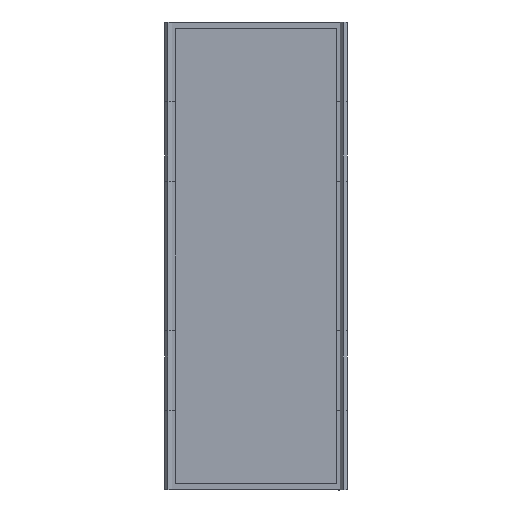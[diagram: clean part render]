
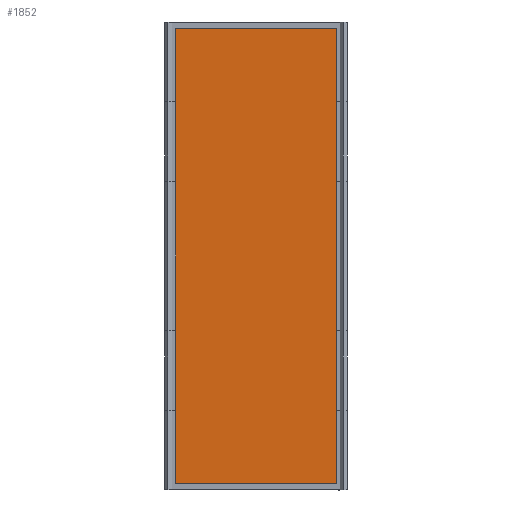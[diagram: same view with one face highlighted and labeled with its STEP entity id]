
A CAD part, front view. The second image highlights one B-rep face of the part: STEP entity #1852.
In plain terms, the highlighted planar face has unit normal (-0.087, -0.996, 0).
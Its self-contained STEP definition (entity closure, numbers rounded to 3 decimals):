
#54=FACE_OUTER_BOUND('',#161,.T.);
#161=EDGE_LOOP('',(#1223,#1224,#1225,#1226));
#268=LINE('',#2612,#520);
#272=LINE('',#2620,#524);
#274=LINE('',#2624,#526);
#275=LINE('',#2625,#527);
#520=VECTOR('',#2111,10.);
#524=VECTOR('',#2117,10.);
#526=VECTOR('',#2121,10.);
#527=VECTOR('',#2122,10.);
#771=VERTEX_POINT('',#2608);
#773=VERTEX_POINT('',#2611);
#776=VERTEX_POINT('',#2619);
#777=VERTEX_POINT('',#2623);
#948=EDGE_CURVE('',#773,#771,#268,.T.);
#952=EDGE_CURVE('',#776,#773,#272,.T.);
#954=EDGE_CURVE('',#771,#777,#274,.F.);
#955=EDGE_CURVE('',#777,#776,#275,.F.);
#1223=ORIENTED_EDGE('',*,*,#952,.T.);
#1224=ORIENTED_EDGE('',*,*,#948,.T.);
#1225=ORIENTED_EDGE('',*,*,#954,.T.);
#1226=ORIENTED_EDGE('',*,*,#955,.T.);
#1753=PLANE('',#1985);
#1852=ADVANCED_FACE('',(#54),#1753,.F.);
#1985=AXIS2_PLACEMENT_3D('',#2622,#2119,#2120);
#2111=DIRECTION('',(0.996,-0.087,0.));
#2117=DIRECTION('',(0.,0.,-1.));
#2119=DIRECTION('center_axis',(0.087,0.996,0.));
#2120=DIRECTION('ref_axis',(-0.996,0.087,0.));
#2121=DIRECTION('',(0.,0.,-1.));
#2122=DIRECTION('',(0.996,-0.087,0.));
#2608=CARTESIAN_POINT('',(628.,47.932,-1775.5));
#2611=CARTESIAN_POINT('',(-628.,157.817,-1775.5));
#2612=CARTESIAN_POINT('',(304.448,76.239,-1775.5));
#2619=CARTESIAN_POINT('',(-628.,157.817,1775.5));
#2620=CARTESIAN_POINT('',(-628.,157.817,0.));
#2622=CARTESIAN_POINT('Origin',(629.826,47.772,0.));
#2623=CARTESIAN_POINT('',(628.,47.932,1775.5));
#2624=CARTESIAN_POINT('',(628.,47.932,0.));
#2625=CARTESIAN_POINT('',(304.448,76.239,1775.5));
